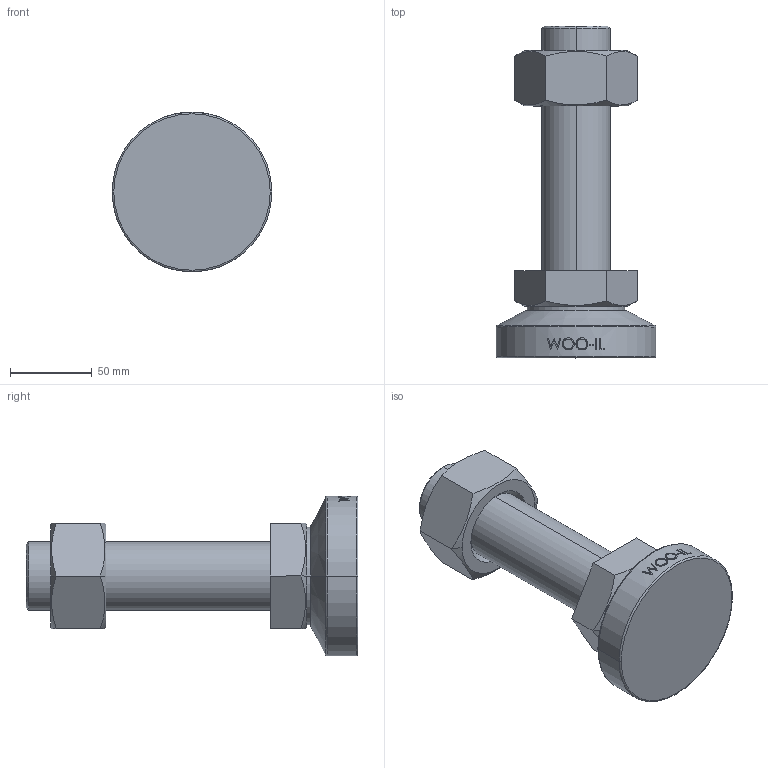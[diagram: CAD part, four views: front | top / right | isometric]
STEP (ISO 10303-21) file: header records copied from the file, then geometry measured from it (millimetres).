
FILE_DESCRIPTION (( 'STEP AP214' ), '1' );
FILE_NAME ('MFB98-M42-150.step', '2022-06-27T08:37:39', ( '' ), ( '' ), 'SwSTEP 2.0', 'SolidWorks 2019', '' );
FILE_SCHEMA (( 'AUTOMOTIVE_DESIGN' ));
Length unit declared in the file: millimetre
Products named in the file (1): MFB98-M42-150
Bounding box: 98 x 203.5 x 98 mm (x, y, z)
Volume: 565209 mm3; surface area: 69407.8 mm2
Topology: 3 solids, 3 shells, 97 faces, 225 edges, 144 vertices
Faces by surface type: plane 47, cylinder 16, bspline 16, cone 14, torus 4
Entity records: 4315 total; most frequent: CARTESIAN_POINT 2185, ORIENTED_EDGE 450, DIRECTION 385, EDGE_CURVE 225, VERTEX_POINT 144, AXIS2_PLACEMENT_3D 144, EDGE_LOOP 109, FACE_OUTER_BOUND 97
